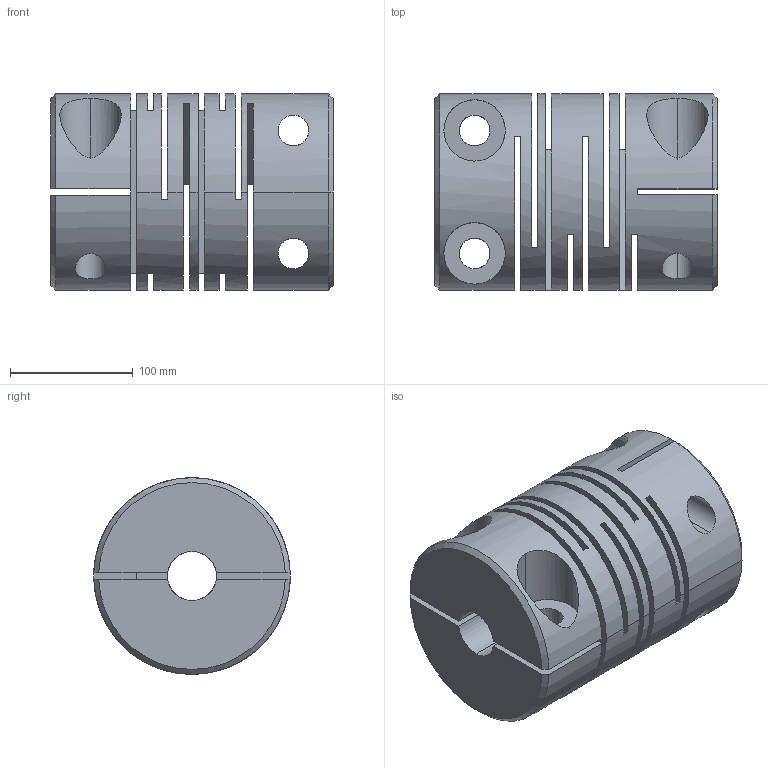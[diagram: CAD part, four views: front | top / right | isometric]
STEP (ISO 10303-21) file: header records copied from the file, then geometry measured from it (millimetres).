
FILE_DESCRIPTION (( 'STEP AP203' ), '1' );
FILE_NAME ('SFCS-16C_.STEP', '2020-04-01T07:51:09', ( '' ), ( '' ), 'SwSTEP 2.0', 'SolidWorks 2018', '' );
FILE_SCHEMA (( 'CONFIG_CONTROL_DESIGN' ));
Length unit declared in the file: inch
Products named in the file (1): SFCS-16C_
Bounding box: 230 x 160 x 160 mm (x, y, z)
Volume: 3188923.8 mm3; surface area: 477140.1 mm2
Topology: 1 solids, 1 shells, 101 faces, 280 edges, 185 vertices
Faces by surface type: cylinder 50, plane 46, cone 5
Entity records: 4340 total; most frequent: CARTESIAN_POINT 1533, DIRECTION 589, ORIENTED_EDGE 560, EDGE_CURVE 280, AXIS2_PLACEMENT_3D 231, VERTEX_POINT 185, EDGE_LOOP 135, CIRCLE 129
